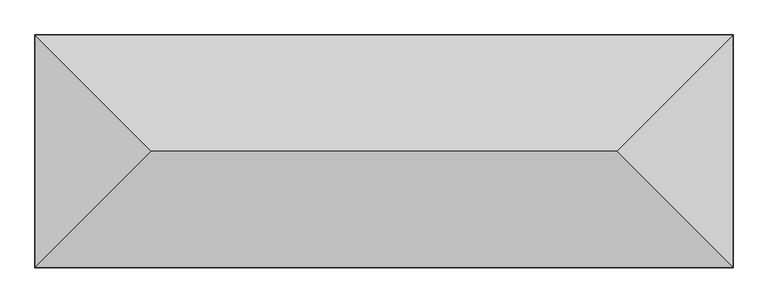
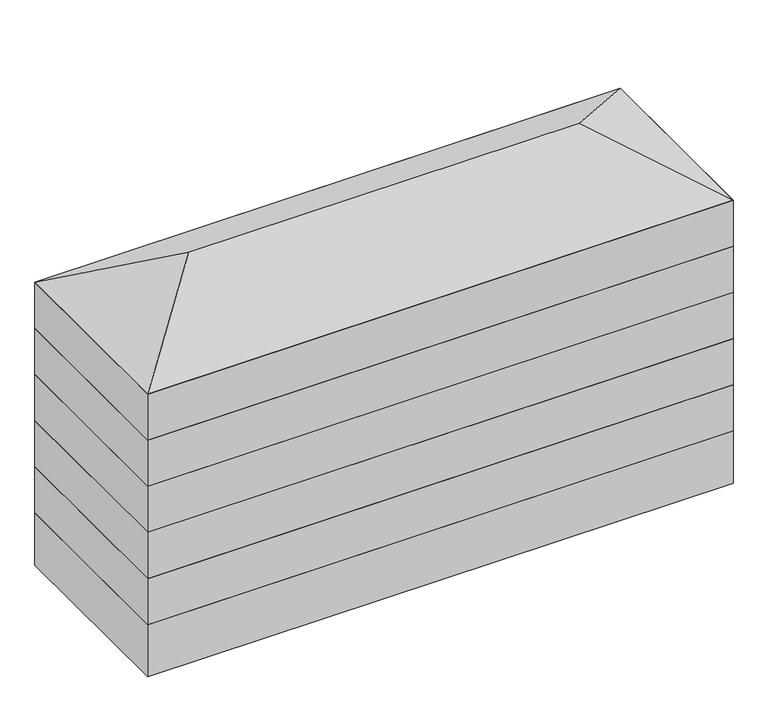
"""IFC4 building model written with IfcOpenShell, lengths in millimetres: geographic element geometry, Окружающая застройка : 5 кж."""

import ifcopenshell
import ifcopenshell.guid

model = None  # the IFC model being written
_history = None  # IfcOwnerHistory: only IFC2X3 demands one
_inside = {}  # id of a spatial element -> (the spatial element, [elements in it])
_under = {}  # id of a project, library or spatial element -> (it, [spatial elements below it])
_declared = {}  # id of a project -> (the project, [libraries it declares])
_typed = {}  # id of a type object -> (the type object, [elements of that type])
_made_of = {}  # id of a material, layer set ... -> (it, [elements and type objects made of it])


def new_model(schema):
    """Start an empty IFC model of exactly this schema.

    Asked for "IFC4X3", IfcOpenShell would pick the latest addendum, in which some entities
    have other attributes; the version numbers below select the first issue.
    IFC2X3 requires an IfcOwnerHistory on every rooted entity: one is made here for all.
    """
    global model, _history
    if schema == "IFC4X3":
        model = ifcopenshell.file(schema_version=(4, 3, 0, 0))
    else:
        model = ifcopenshell.file(schema=schema)
    _inside.clear()
    _under.clear()
    _declared.clear()
    _typed.clear()
    _made_of.clear()
    _history = None
    if model.schema == "IFC2X3":
        org = make("IfcOrganization", Name="unknown")
        user = make(
            "IfcPersonAndOrganization",
            ThePerson=make("IfcPerson", FamilyName="unknown"),
            TheOrganization=org,
        )
        app = make(
            "IfcApplication",
            ApplicationDeveloper=org,
            Version="unknown",
            ApplicationFullName="unknown",
            ApplicationIdentifier="unknown",
        )
        _history = make(
            "IfcOwnerHistory",
            OwningUser=user,
            OwningApplication=app,
            ChangeAction="ADDED",
            CreationDate=0,
        )
    return model


def make(cls, **values):
    """One entity of the class cls with the attributes given. An attribute that is None is left unset."""
    return model.create_entity(
        cls, **{name: value for name, value in values.items() if value is not None}
    )


def rooted(cls, **values):
    """An entity with a GlobalId (a new one), such as an element, a storey or a relation."""
    return make(cls, GlobalId=ifcopenshell.guid.new(), OwnerHistory=_history, **values)


def si_unit(unit_type, name, prefix=None):
    """IfcSIUnit, for example si_unit("LENGTHUNIT", "METRE", prefix="MILLI")."""
    return make("IfcSIUnit", UnitType=unit_type, Prefix=prefix, Name=name)


def assignment(units):
    """IfcUnitAssignment: the units of a project."""
    return None if units is None else make("IfcUnitAssignment", Units=units)


def point(xyz):
    """IfcCartesianPoint."""
    return None if xyz is None else make("IfcCartesianPoint", Coordinates=xyz)


def direction(xyz):
    """IfcDirection."""
    return None if xyz is None else make("IfcDirection", DirectionRatios=xyz)


def frame(location, z_axis=None, x_axis=None):
    """IfcAxis2Placement3D, a coordinate frame: its origin and axes. An axis left out is left unset."""
    return make(
        "IfcAxis2Placement3D",
        Location=point(location),
        Axis=direction(z_axis),
        RefDirection=direction(x_axis),
    )


def origin():
    """The frame at (0, 0, 0) with its axes left unset."""
    return frame((0.0, 0.0, 0.0))


def origin_with_axes():
    """The frame at (0, 0, 0) with the z axis (0, 0, 1) and the x axis (1, 0, 0) written out."""
    return frame((0.0, 0.0, 0.0), z_axis=(0.0, 0.0, 1.0), x_axis=(1.0, 0.0, 0.0))


def place(relative_to, where):
    """IfcLocalPlacement: puts the frame where relative to a parent placement (None: the world)."""
    return make(
        "IfcLocalPlacement", PlacementRelTo=relative_to, RelativePlacement=where
    )


def context(
    kind, dimensions, precision=None, world=None, true_north=None, identifier=None
):
    """IfcGeometricRepresentationContext, for example the 3D "Model" context."""
    return make(
        "IfcGeometricRepresentationContext",
        ContextIdentifier=identifier,
        ContextType=kind,
        CoordinateSpaceDimension=dimensions,
        Precision=precision,
        WorldCoordinateSystem=world,
        TrueNorth=true_north,
    )


def project(units=None, contexts=None):
    """IfcProject with its units and contexts."""
    return rooted(
        "IfcProject",
        Name="project",
        RepresentationContexts=contexts,
        UnitsInContext=assignment(units),
    )


def spatial(cls, under=None, at=None, **own):
    """A site, building, storey or space (cls), placed at a placement, below another one or the project."""
    s = rooted(cls, ObjectPlacement=at, **own)
    if under is not None:
        _under.setdefault(under.id(), (under, []))[1].append(s)
    return s


def polyline(points):
    """IfcPolyline through the points."""
    return make("IfcPolyline", Points=[point(p) for p in points])


def outline(outer, holes=None, kind="AREA"):
    """IfcArbitraryClosedProfileDef: a profile drawn as a closed curve; with holes, ...WithVoids."""
    if holes is None:
        return make("IfcArbitraryClosedProfileDef", ProfileType=kind, OuterCurve=outer)
    return make(
        "IfcArbitraryProfileDefWithVoids",
        ProfileType=kind,
        OuterCurve=outer,
        InnerCurves=holes,
    )


def extrude(swept, where, along, depth):
    """IfcExtrudedAreaSolid: the profile swept, set in the frame where, extruded along a direction by depth."""
    return make(
        "IfcExtrudedAreaSolid",
        SweptArea=swept,
        Position=where,
        ExtrudedDirection=direction(along),
        Depth=depth,
    )


def faces_of(points, faces, orient=None, outer=None):
    """IfcFace entities. A face is a list of loops; a loop is a list of indices into points, from 0.

    orient and outer hold one flag for each loop. By default every Orientation is true, the
    first loop of a face is its IfcFaceOuterBound and the others are IfcFaceBound.
    """
    made = []
    for i, loops in enumerate(faces):
        bounds = []
        for j, loop in enumerate(loops):
            is_outer = j == 0 if outer is None else outer[i][j]
            bounds.append(
                make(
                    "IfcFaceOuterBound" if is_outer else "IfcFaceBound",
                    Bound=make("IfcPolyLoop", Polygon=[points[k] for k in loop]),
                    Orientation=True if orient is None else orient[i][j],
                )
            )
        made.append(make("IfcFace", Bounds=bounds))
    return made


def faceted_brep(points, faces, orient=None, outer=None, voids=None):
    """IfcFacetedBrep: a solid bounded by flat faces; with voids (closed shells), ...WithVoids."""
    shared = [point(p) for p in points]
    hull = make("IfcClosedShell", CfsFaces=faces_of(shared, faces, orient, outer))
    if voids is None:
        return make("IfcFacetedBrep", Outer=hull)
    return make(
        "IfcFacetedBrepWithVoids",
        Outer=hull,
        Voids=[
            make(cls, CfsFaces=faces_of(shared, fs, o, b)) for cls, fs, o, b in voids
        ],
    )


def shape(context_of_items, identifier, shape_type, items):
    """IfcShapeRepresentation: the items that make up one representation, for example the "Body"."""
    return make(
        "IfcShapeRepresentation",
        ContextOfItems=context_of_items,
        RepresentationIdentifier=identifier,
        RepresentationType=shape_type,
        Items=items,
    )


def source(mapping_origin, context_of_items, identifier, shape_type, items):
    """IfcRepresentationMap: a shape defined once, which mapped items show again and again."""
    return make(
        "IfcRepresentationMap",
        MappingOrigin=mapping_origin,
        MappedRepresentation=shape(context_of_items, identifier, shape_type, items),
    )


def transform(
    local_origin,
    x_axis=None,
    y_axis=None,
    z_axis=None,
    scale=None,
    scale2=None,
    scale3=None,
    uniform=True,
):
    """IfcCartesianTransformationOperator3D, or its non-uniform kind. x_axis, y_axis, z_axis: its Axis1, 2, 3."""
    if uniform:
        return make(
            "IfcCartesianTransformationOperator3D",
            Axis1=direction(x_axis),
            Axis2=direction(y_axis),
            LocalOrigin=point(local_origin),
            Scale=scale,
            Axis3=direction(z_axis),
        )
    return make(
        "IfcCartesianTransformationOperator3DnonUniform",
        Axis1=direction(x_axis),
        Axis2=direction(y_axis),
        LocalOrigin=point(local_origin),
        Scale=scale,
        Axis3=direction(z_axis),
        Scale2=scale2,
        Scale3=scale3,
    )


def mapped(mapping_source, mapping_target):
    """IfcMappedItem: shows the shape of a source again, moved by a transform."""
    return make(
        "IfcMappedItem", MappingSource=mapping_source, MappingTarget=mapping_target
    )


def made_of(thing, what):
    """Note that an element or type object is made of a material, layer set ...; save() writes the relation."""
    if what is not None:
        _made_of.setdefault(what.id(), (what, []))[1].append(thing)
    return thing


def element(
    cls,
    number,
    at=None,
    inside=None,
    cuts=None,
    type_object=None,
    material=None,
    context=None,
    identifier="Body",
    shape_type=None,
    held_by="IfcProductDefinitionShape",
    body=None,
    shapes=None,
    **own,
):
    """One element of the class cls, such as IfcWall. Its Tag is "e" and its number.

    at: its placement. inside: the storey or other place that contains it. cuts: it is an
    opening in that element (IfcRelVoidsElement). A single representation is given by context,
    identifier, shape_type and body (its items); several are given by shapes. held_by: the class
    of the entity that holds the representations. save() writes the other relations.
    """
    e = rooted(cls, Tag="e%d" % number, ObjectPlacement=at, **own)
    if body is not None:
        shapes = [shape(context, identifier, shape_type, body)]
    if shapes is not None:
        e.Representation = make(held_by, Representations=shapes)
    if inside is not None:
        _inside.setdefault(inside.id(), (inside, []))[1].append(e)
    if cuts is not None:
        rooted(
            "IfcRelVoidsElement", RelatingBuildingElement=cuts, RelatedOpeningElement=e
        )
    if type_object is not None:
        _typed.setdefault(type_object.id(), (type_object, []))[1].append(e)
    return made_of(e, material)


def aggregate(whole, parts):
    """IfcRelAggregates: a whole, such as a stair, and the parts it consists of."""
    return rooted("IfcRelAggregates", RelatingObject=whole, RelatedObjects=parts)


def save(model, path):
    """Write the relations noted so far, then the file.

    IfcRelAggregates (storeys below a building ...), IfcRelContainedInSpatialStructure (elements
    in a storey), IfcRelDefinesByType, IfcRelAssociatesMaterial and IfcRelDeclares: one each for
    every whole, place, type object, material and project.
    """
    for whole, parts in _under.values():
        aggregate(whole, parts)
    for where, things in _inside.values():
        rooted(
            "IfcRelContainedInSpatialStructure",
            RelatedElements=things,
            RelatingStructure=where,
        )
    for kind, things in _typed.values():
        rooted("IfcRelDefinesByType", RelatedObjects=things, RelatingType=kind)
    for what, things in _made_of.values():
        rooted("IfcRelAssociatesMaterial", RelatedObjects=things, RelatingMaterial=what)
    for by, libraries in _declared.values():
        rooted("IfcRelDeclares", RelatingContext=by, RelatedDefinitions=libraries)
    model.write(path)


def geographic_element_74677d7c(model_context):
    return source(origin(), model_context, "Body", "SolidModel", [
        extrude(outline(polyline([(36000.0, 0.0), (0.0, 0.0), (0.0, 12000.0), (36000.0, 12000.0), (36000.0, 0.0)])), frame((0.0, 0.0, 12000.0), z_axis=(0.0, 0.0, 1.0), x_axis=(1.0, 0.0, 0.0)), (0.0, 0.0, 1.0), 3000.0),
        extrude(outline(polyline([(36000.0, 0.0), (0.0, 0.0), (0.0, 12000.0), (36000.0, 12000.0), (36000.0, 0.0)])), frame((0.0, 0.0, 9000.0), z_axis=(0.0, 0.0, 1.0), x_axis=(1.0, 0.0, 0.0)), (0.0, 0.0, 1.0), 3000.0),
        extrude(outline(polyline([(36000.0, 0.0), (0.0, 0.0), (0.0, 12000.0), (36000.0, 12000.0), (36000.0, 0.0)])), origin_with_axes(), (0.0, 0.0, 1.0), 3000.0),
        extrude(outline(polyline([(36000.0, 12000.0), (36000.0, 0.0), (0.0, 0.0), (0.0, 12000.0), (36000.0, 12000.0)])), frame((0.0, 0.0, -3390.8), z_axis=(0.0, 0.0, 1.0), x_axis=(1.0, 0.0, 0.0)), (0.0, 0.0, 1.0), 3390.8),
        faceted_brep([(36000.0, 0.0, 15000.0), (0.0, 0.0, 15000.0), (0.0, 12000.0, 15000.0), (36000.0, 12000.0, 15000.0), (6000.0, 6000.0, 18464.1016151), (30000.0, 6000.0, 18464.1016151)], [[[0, 1, 2, 3]], [[3, 2, 4, 5]], [[1, 0, 5, 4]], [[2, 1, 4]], [[0, 3, 5]]]),
        extrude(outline(polyline([(36000.0, 0.0), (0.0, 0.0), (0.0, 12000.0), (36000.0, 12000.0), (36000.0, 0.0)])), frame((0.0, 0.0, 3000.0), z_axis=(0.0, 0.0, 1.0), x_axis=(1.0, 0.0, 0.0)), (0.0, 0.0, 1.0), 3000.0),
        extrude(outline(polyline([(36000.0, 0.0), (0.0, 0.0), (0.0, 12000.0), (36000.0, 12000.0), (36000.0, 0.0)])), frame((0.0, 0.0, 6000.0), z_axis=(0.0, 0.0, 1.0), x_axis=(1.0, 0.0, 0.0)), (0.0, 0.0, 1.0), 3000.0),
    ])


if __name__ == "__main__":
    model = new_model("IFC4")
    model_context = context("Model", 3, world=origin())
    ifc_project = project(units=[si_unit("LENGTHUNIT", "METRE", prefix="MILLI")], contexts=[model_context])
    site = spatial("IfcSite", under=ifc_project)
    building = spatial("IfcBuilding", under=site)
    placement = place(None, origin())
    geographic_element_shape = geographic_element_74677d7c(model_context)
    element("IfcGeographicElement", 1, ObjectType="Окружающая застройка : 5 кж", at=placement, inside=building, context=model_context, shape_type="MappedRepresentation", body=[
        mapped(geographic_element_shape, transform((0.0, 0.0, 0.0), x_axis=(1.0, 0.0, 0.0), y_axis=(0.0, 1.0, 0.0), z_axis=(0.0, 0.0, 1.0))),
    ])
    save(model, "model.ifc")
